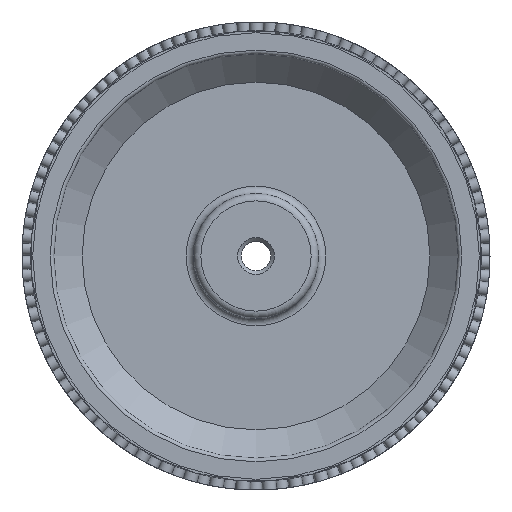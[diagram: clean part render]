
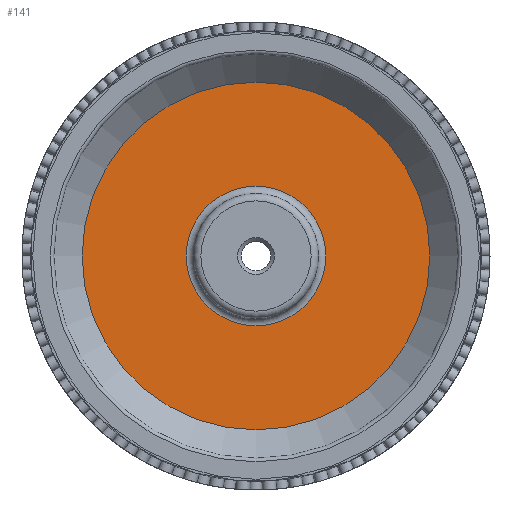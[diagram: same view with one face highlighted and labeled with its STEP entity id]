
A CAD part, front view. The second image highlights one B-rep face of the part: STEP entity #141.
In plain terms, the highlighted planar face has unit normal (0, -1, 0).
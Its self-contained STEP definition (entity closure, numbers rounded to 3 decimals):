
#141 = ADVANCED_FACE( '', ( #268, #269 ), #270, .F. );
#268 = FACE_BOUND( '', #854, .T. );
#269 = FACE_OUTER_BOUND( '', #855, .T. );
#270 = PLANE( '', #856 );
#854 = EDGE_LOOP( '', ( #2393 ) );
#855 = EDGE_LOOP( '', ( #2394 ) );
#856 = AXIS2_PLACEMENT_3D( '', #2395, #2396, #2397 );
#2393 = ORIENTED_EDGE( '', *, *, #3871, .T. );
#2394 = ORIENTED_EDGE( '', *, *, #3872, .T. );
#2395 = CARTESIAN_POINT( '', ( 0., 5.35, 23.65 ) );
#2396 = DIRECTION( '', ( 0., 1., 0. ) );
#2397 = DIRECTION( '', ( 0., 0., 1. ) );
#3871 = EDGE_CURVE( '', #6272, #6272, #6273, .T. );
#3872 = EDGE_CURVE( '', #6274, #6274, #6275, .T. );
#6272 = VERTEX_POINT( '', #6947 );
#6273 = CIRCLE( '', #6948, 9.5 );
#6274 = VERTEX_POINT( '', #6949 );
#6275 = CIRCLE( '', #6950, 23.65 );
#6947 = CARTESIAN_POINT( '', ( 0., 5.35, 9.5 ) );
#6948 = AXIS2_PLACEMENT_3D( '', #7969, #7970, #7971 );
#6949 = CARTESIAN_POINT( '', ( 0., 5.35, -23.65 ) );
#6950 = AXIS2_PLACEMENT_3D( '', #7972, #7973, #7974 );
#7969 = CARTESIAN_POINT( '', ( 0., 5.35, 0. ) );
#7970 = DIRECTION( '', ( 0., 1., 0. ) );
#7971 = DIRECTION( '', ( 0., 0., 1. ) );
#7972 = CARTESIAN_POINT( '', ( 0., 5.35, 0. ) );
#7973 = DIRECTION( '', ( 0., -1., 0. ) );
#7974 = DIRECTION( '', ( 0., 0., -1. ) );
